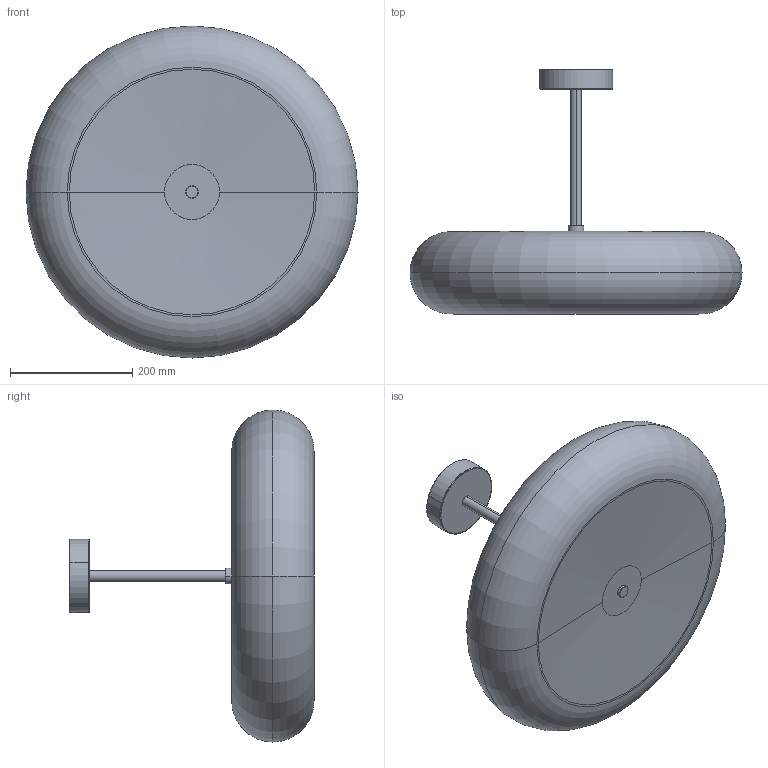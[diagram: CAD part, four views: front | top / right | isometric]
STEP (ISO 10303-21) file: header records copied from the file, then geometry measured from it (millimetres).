
FILE_DESCRIPTION(('Creo Elements/Direct Modeling STEP Export'),'2;1');
FILE_NAME('ARNO LED PENDELROHR 540.stp','2016-03-15T17:30:48',(''),(''),'Creo Elements/Direct Modeling STEP processor for AP214 (Solid Model)','Creo Elements/Direct Modeling 18.1A 09-Jun-2012 (C) Parametric Technology GmbH','');
FILE_SCHEMA(('AUTOMOTIVE_DESIGN { 1 0 10303 214 1 1 1 1 }'));
Length unit declared in the file: millimetre
Products named in the file (2): ARNO_LED_PR; ARNO_LED_PR_540.1
Assembly tree (1 placements, depth 2):
  ARNO_LED_PR_540.1
    ARNO_LED_PR
Bounding box: 544 x 400 x 544 mm (x, y, z)
Volume: 27474752.3 mm3; surface area: 653380.3 mm2
Topology: 1 solids, 1 shells, 44 faces, 86 edges, 50 vertices
Faces by surface type: cone 14, cylinder 14, plane 8, torus 8
Entity records: 1042 total; most frequent: DIRECTION 182, ORIENTED_EDGE 172, CARTESIAN_POINT 155, EDGE_CURVE 86, AXIS2_PLACEMENT_3D 77, VERTEX_POINT 50, EDGE_LOOP 50, FACE_OUTER_BOUND 44
